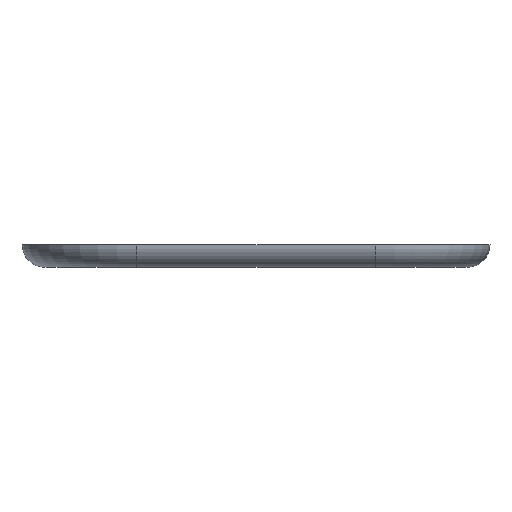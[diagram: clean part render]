
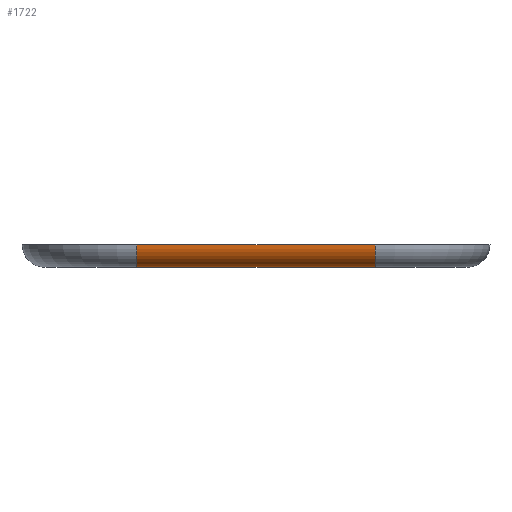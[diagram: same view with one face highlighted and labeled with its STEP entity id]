
A CAD part, front view. The second image highlights one B-rep face of the part: STEP entity #1722.
In plain terms, the highlighted cylindrical face has radius 4.2 mm (diameter 8.4 mm), a partial arc.
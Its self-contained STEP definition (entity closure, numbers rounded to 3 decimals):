
#73 = PLANE('',#74);
#74 = AXIS2_PLACEMENT_3D('',#75,#76,#77);
#75 = CARTESIAN_POINT('',(-43.2,-67.2,-11.95));
#76 = DIRECTION('',(0.,0.,1.));
#77 = DIRECTION('',(1.,0.,-0.));
#102 = TOROIDAL_SURFACE('',#103,17.,4.2);
#103 = AXIS2_PLACEMENT_3D('',#104,#105,#106);
#104 = CARTESIAN_POINT('',(-22.,-46.,-7.75));
#105 = DIRECTION('',(-0.,-0.,-1.));
#106 = DIRECTION('',(0.,-1.,0.));
#127 = PLANE('',#128);
#128 = AXIS2_PLACEMENT_3D('',#129,#130,#131);
#129 = CARTESIAN_POINT('',(-90.,-110.,-7.8));
#130 = DIRECTION('',(0.,0.,1.));
#131 = DIRECTION('',(1.,0.,-0.));
#231 = VERTEX_POINT('',#232);
#232 = CARTESIAN_POINT('',(-22.,-63.,-11.95));
#258 = EDGE_CURVE('',#259,#231,#261,.T.);
#259 = VERTEX_POINT('',#260);
#260 = CARTESIAN_POINT('',(22.,-63.,-11.95));
#261 = SURFACE_CURVE('',#262,(#266,#273),.PCURVE_S1.);
#262 = LINE('',#263,#264);
#263 = CARTESIAN_POINT('',(22.,-63.,-11.95));
#264 = VECTOR('',#265,1.);
#265 = DIRECTION('',(-1.,-0.,-0.));
#266 = PCURVE('',#73,#267);
#267 = DEFINITIONAL_REPRESENTATION('',(#268),#272);
#268 = LINE('',#269,#270);
#269 = CARTESIAN_POINT('',(65.2,4.2));
#270 = VECTOR('',#271,1.);
#271 = DIRECTION('',(-1.,0.));
#272 = ( GEOMETRIC_REPRESENTATION_CONTEXT(2) 
PARAMETRIC_REPRESENTATION_CONTEXT() REPRESENTATION_CONTEXT('2D SPACE',''
  ) );
#273 = PCURVE('',#274,#279);
#274 = CYLINDRICAL_SURFACE('',#275,4.2);
#275 = AXIS2_PLACEMENT_3D('',#276,#277,#278);
#276 = CARTESIAN_POINT('',(22.,-63.,-7.75));
#277 = DIRECTION('',(-1.,-0.,-0.));
#278 = DIRECTION('',(0.,-1.,0.));
#279 = DEFINITIONAL_REPRESENTATION('',(#280),#284);
#280 = LINE('',#281,#282);
#281 = CARTESIAN_POINT('',(4.712,0.));
#282 = VECTOR('',#283,1.);
#283 = DIRECTION('',(-0.,1.));
#284 = ( GEOMETRIC_REPRESENTATION_CONTEXT(2) 
PARAMETRIC_REPRESENTATION_CONTEXT() REPRESENTATION_CONTEXT('2D SPACE',''
  ) );
#307 = TOROIDAL_SURFACE('',#308,17.,4.2);
#308 = AXIS2_PLACEMENT_3D('',#309,#310,#311);
#309 = CARTESIAN_POINT('',(22.,-46.,-7.75));
#310 = DIRECTION('',(-0.,-0.,-1.));
#311 = DIRECTION('',(1.,0.,-0.));
#1021 = EDGE_CURVE('',#1022,#231,#1024,.T.);
#1022 = VERTEX_POINT('',#1023);
#1023 = CARTESIAN_POINT('',(-22.,-67.2,-7.8));
#1024 = SURFACE_CURVE('',#1025,(#1030,#1037),.PCURVE_S1.);
#1025 = CIRCLE('',#1026,4.2);
#1026 = AXIS2_PLACEMENT_3D('',#1027,#1028,#1029);
#1027 = CARTESIAN_POINT('',(-22.,-63.,-7.75));
#1028 = DIRECTION('',(1.,0.,0.));
#1029 = DIRECTION('',(0.,-1.,0.));
#1030 = PCURVE('',#102,#1031);
#1031 = DEFINITIONAL_REPRESENTATION('',(#1032),#1036);
#1032 = LINE('',#1033,#1034);
#1033 = CARTESIAN_POINT('',(0.,0.));
#1034 = VECTOR('',#1035,1.);
#1035 = DIRECTION('',(0.,1.));
#1036 = ( GEOMETRIC_REPRESENTATION_CONTEXT(2) 
PARAMETRIC_REPRESENTATION_CONTEXT() REPRESENTATION_CONTEXT('2D SPACE',''
  ) );
#1037 = PCURVE('',#274,#1038);
#1038 = DEFINITIONAL_REPRESENTATION('',(#1039),#1043);
#1039 = LINE('',#1040,#1041);
#1040 = CARTESIAN_POINT('',(6.283,44.));
#1041 = VECTOR('',#1042,1.);
#1042 = DIRECTION('',(-1.,0.));
#1043 = ( GEOMETRIC_REPRESENTATION_CONTEXT(2) 
PARAMETRIC_REPRESENTATION_CONTEXT() REPRESENTATION_CONTEXT('2D SPACE',''
  ) );
#1078 = EDGE_CURVE('',#1079,#1022,#1081,.T.);
#1079 = VERTEX_POINT('',#1080);
#1080 = CARTESIAN_POINT('',(22.,-67.2,-7.8));
#1081 = SURFACE_CURVE('',#1082,(#1086,#1093),.PCURVE_S1.);
#1082 = LINE('',#1083,#1084);
#1083 = CARTESIAN_POINT('',(22.,-67.2,-7.8));
#1084 = VECTOR('',#1085,1.);
#1085 = DIRECTION('',(-1.,-0.,-0.));
#1086 = PCURVE('',#127,#1087);
#1087 = DEFINITIONAL_REPRESENTATION('',(#1088),#1092);
#1088 = LINE('',#1089,#1090);
#1089 = CARTESIAN_POINT('',(112.,42.8));
#1090 = VECTOR('',#1091,1.);
#1091 = DIRECTION('',(-1.,0.));
#1092 = ( GEOMETRIC_REPRESENTATION_CONTEXT(2) 
PARAMETRIC_REPRESENTATION_CONTEXT() REPRESENTATION_CONTEXT('2D SPACE',''
  ) );
#1093 = PCURVE('',#274,#1094);
#1094 = DEFINITIONAL_REPRESENTATION('',(#1095),#1098);
#1095 = B_SPLINE_CURVE_WITH_KNOTS('',1,(#1096,#1097),.UNSPECIFIED.,.F.,
  .F.,(2,2),(0.,44.),.PIECEWISE_BEZIER_KNOTS.);
#1096 = CARTESIAN_POINT('',(6.271,0.));
#1097 = CARTESIAN_POINT('',(6.271,44.));
#1098 = ( GEOMETRIC_REPRESENTATION_CONTEXT(2) 
PARAMETRIC_REPRESENTATION_CONTEXT() REPRESENTATION_CONTEXT('2D SPACE',''
  ) );
#1722 = ADVANCED_FACE('',(#1723),#274,.T.);
#1723 = FACE_BOUND('',#1724,.T.);
#1724 = EDGE_LOOP('',(#1725,#1726,#1727,#1749));
#1725 = ORIENTED_EDGE('',*,*,#1021,.T.);
#1726 = ORIENTED_EDGE('',*,*,#258,.F.);
#1727 = ORIENTED_EDGE('',*,*,#1728,.F.);
#1728 = EDGE_CURVE('',#1079,#259,#1729,.T.);
#1729 = SURFACE_CURVE('',#1730,(#1735,#1742),.PCURVE_S1.);
#1730 = CIRCLE('',#1731,4.2);
#1731 = AXIS2_PLACEMENT_3D('',#1732,#1733,#1734);
#1732 = CARTESIAN_POINT('',(22.,-63.,-7.75));
#1733 = DIRECTION('',(1.,0.,0.));
#1734 = DIRECTION('',(0.,-1.,0.));
#1735 = PCURVE('',#274,#1736);
#1736 = DEFINITIONAL_REPRESENTATION('',(#1737),#1741);
#1737 = LINE('',#1738,#1739);
#1738 = CARTESIAN_POINT('',(6.283,0.));
#1739 = VECTOR('',#1740,1.);
#1740 = DIRECTION('',(-1.,0.));
#1741 = ( GEOMETRIC_REPRESENTATION_CONTEXT(2) 
PARAMETRIC_REPRESENTATION_CONTEXT() REPRESENTATION_CONTEXT('2D SPACE',''
  ) );
#1742 = PCURVE('',#307,#1743);
#1743 = DEFINITIONAL_REPRESENTATION('',(#1744),#1748);
#1744 = LINE('',#1745,#1746);
#1745 = CARTESIAN_POINT('',(1.571,0.));
#1746 = VECTOR('',#1747,1.);
#1747 = DIRECTION('',(0.,1.));
#1748 = ( GEOMETRIC_REPRESENTATION_CONTEXT(2) 
PARAMETRIC_REPRESENTATION_CONTEXT() REPRESENTATION_CONTEXT('2D SPACE',''
  ) );
#1749 = ORIENTED_EDGE('',*,*,#1078,.T.);
